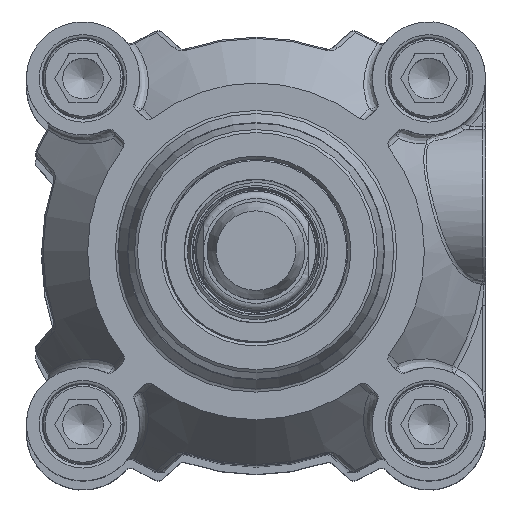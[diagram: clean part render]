
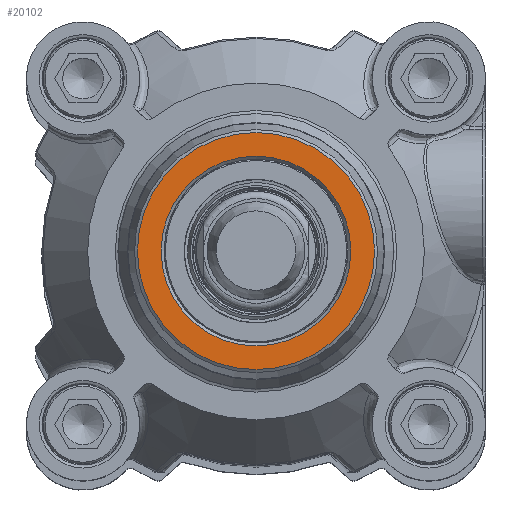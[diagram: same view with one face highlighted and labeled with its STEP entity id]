
A CAD part, top view. The second image highlights one B-rep face of the part: STEP entity #20102.
In plain terms, the highlighted planar face has unit normal (0, 0, 1).
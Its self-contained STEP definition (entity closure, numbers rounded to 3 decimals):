
#3818=FACE_BOUND('',#6362,.T.);
#4857=FACE_OUTER_BOUND('',#6361,.T.);
#6361=EDGE_LOOP('',(#16134));
#6362=EDGE_LOOP('',(#16135));
#7477=CIRCLE('',#21991,15.5);
#7479=CIRCLE('',#21994,19.366);
#9102=VERTEX_POINT('',#39069);
#9104=VERTEX_POINT('',#39074);
#11553=EDGE_CURVE('',#9102,#9102,#7477,.T.);
#11555=EDGE_CURVE('',#9104,#9104,#7479,.T.);
#16134=ORIENTED_EDGE('',*,*,#11555,.T.);
#16135=ORIENTED_EDGE('',*,*,#11553,.F.);
#17792=PLANE('',#21993);
#20102=ADVANCED_FACE('',(#4857,#3818),#17792,.T.);
#21991=AXIS2_PLACEMENT_3D('',#39070,#26177,#26178);
#21993=AXIS2_PLACEMENT_3D('',#39073,#26181,#26182);
#21994=AXIS2_PLACEMENT_3D('',#39075,#26183,#26184);
#26177=DIRECTION('center_axis',(0.,0.,1.));
#26178=DIRECTION('ref_axis',(-1.,0.,0.));
#26181=DIRECTION('center_axis',(0.,0.,1.));
#26182=DIRECTION('ref_axis',(1.,0.,0.));
#26183=DIRECTION('center_axis',(0.,0.,1.));
#26184=DIRECTION('ref_axis',(1.,0.,0.));
#39069=CARTESIAN_POINT('',(15.5,0.,67.5));
#39070=CARTESIAN_POINT('Origin',(0.,0.,67.5));
#39073=CARTESIAN_POINT('Origin',(17.183,0.,67.5));
#39074=CARTESIAN_POINT('',(19.366,0.,67.5));
#39075=CARTESIAN_POINT('Origin',(0.,0.,67.5));
